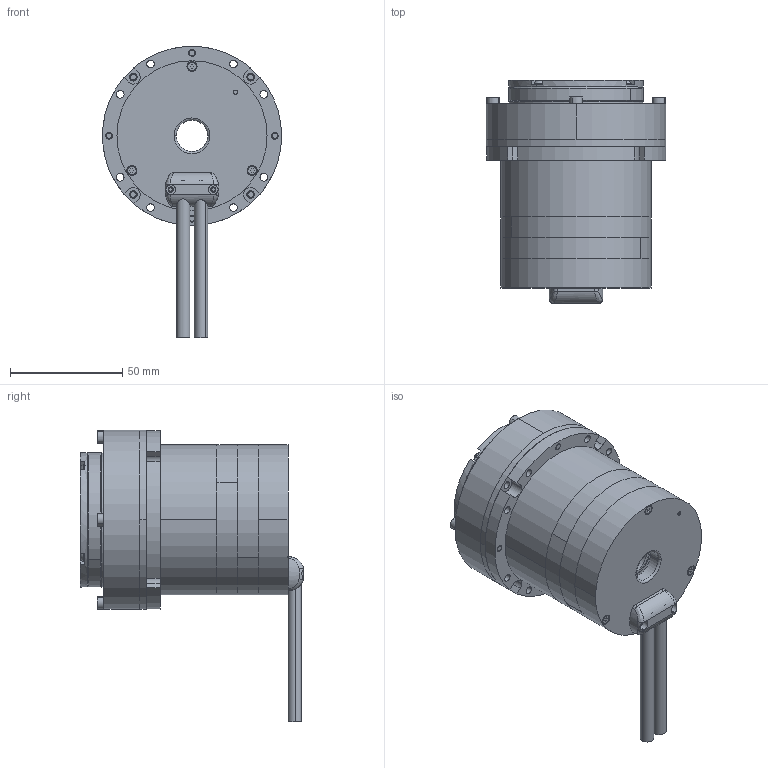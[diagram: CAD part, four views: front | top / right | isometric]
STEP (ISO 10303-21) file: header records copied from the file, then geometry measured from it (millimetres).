
FILE_DESCRIPTION (( 'STEP AP214' ), '1' );
FILE_NAME ('RH-17-B_B.STEP', '2024-05-22T00:55:32', ( '' ), ( '' ), 'SwSTEP 2.0', 'SolidWorks 2020', '' );
FILE_SCHEMA (( 'AUTOMOTIVE_DESIGN' ));
Length unit declared in the file: millimetre
Products named in the file (1): RH-17-B_B
Bounding box: 80 x 99.7 x 130.13 mm (x, y, z)
Surface area: 59726.8 mm2 (no closed solid volume)
Topology: 0 solids, 238 shells, 794 faces, 3351 edges, 2796 vertices
Faces by surface type: plane 449, cylinder 231, bspline 85, torus 14, cone 10, sphere 5
Entity records: 45524 total; most frequent: CARTESIAN_POINT 10098, DIRECTION 5202, ORIENTED_EDGE 4434, EDGE_CURVE 3346, VERTEX_POINT 2796, LINE 2064, VECTOR 2064, AXIS2_PLACEMENT_3D 1569
